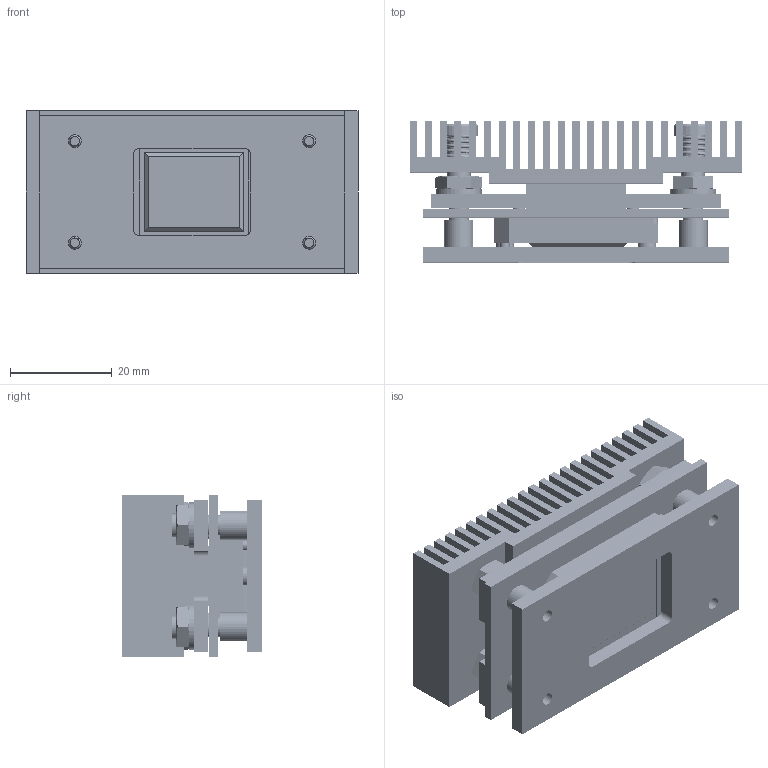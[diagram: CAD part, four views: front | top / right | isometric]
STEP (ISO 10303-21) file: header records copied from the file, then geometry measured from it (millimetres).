
FILE_DESCRIPTION (( 'STEP AP214' ), '1' );
FILE_NAME ('2515244-Mounting-Concept1.STEP', '2016-09-13T20:58:47', ( '' ), ( '' ), 'SwSTEP 2.0', 'SolidWorks 2013', '' );
FILE_SCHEMA (( 'AUTOMOTIVE_DESIGN' ));
Length unit declared in the file: millimetre
Products named in the file (22): 2515249; PCB Elec-Pad-Assy; PCB-Elec-Pad-s410-DMD; 2515249-PCB-Raw-s410; 2515243; s410-47-1080p-DMD_Ceramic; SymPadA-s410; Elec-Pad-Assy; Test-Pad-s410-DMD; Elec-Pad-s410-DMD; s410-Window-All; s410-47-1080p-Ceramic; Coil-Spring-s410; 2515245; 2515292-Compressed; 2515251; 2515244-Mounting-Concept1; 2515246; 2515247-Compressed; 2515252; 2515248; 2515250
Assembly tree (560 placements, depth 4):
  2515244-Mounting-Concept1
    2515245
    s410-47-1080p-DMD_Ceramic
      s410-47-1080p-Ceramic
      s410-Window-All
      Elec-Pad-Assy
        Elec-Pad-s410-DMD  x257
        Test-Pad-s410-DMD  x16
      SymPadA-s410
    2515243
    2515249
      2515249-PCB-Raw-s410
      PCB Elec-Pad-Assy
        PCB-Elec-Pad-s410-DMD  x257
    2515250
    2515248
    2515252  x4
    2515247-Compressed
    2515246
    2515251  x4
    2515292-Compressed  x4
    Coil-Spring-s410  x4
Bounding box: 65.2 x 27.67 x 32 mm (x, y, z)
Volume: 31119.6 mm3; surface area: 39495.1 mm2
Topology: 556 solids, 556 shells, 5560 faces, 11423 edges, 7552 vertices
Faces by surface type: plane 4082, cylinder 1320, cone 110, torus 40, bspline 8
Entity records: 67372 total; most frequent: DIRECTION 12694, CARTESIAN_POINT 11950, ORIENTED_EDGE 9372, AXIS2_PLACEMENT_3D 5301, EDGE_CURVE 4686, VERTEX_POINT 3099, EDGE_LOOP 2807, CIRCLE 2554
